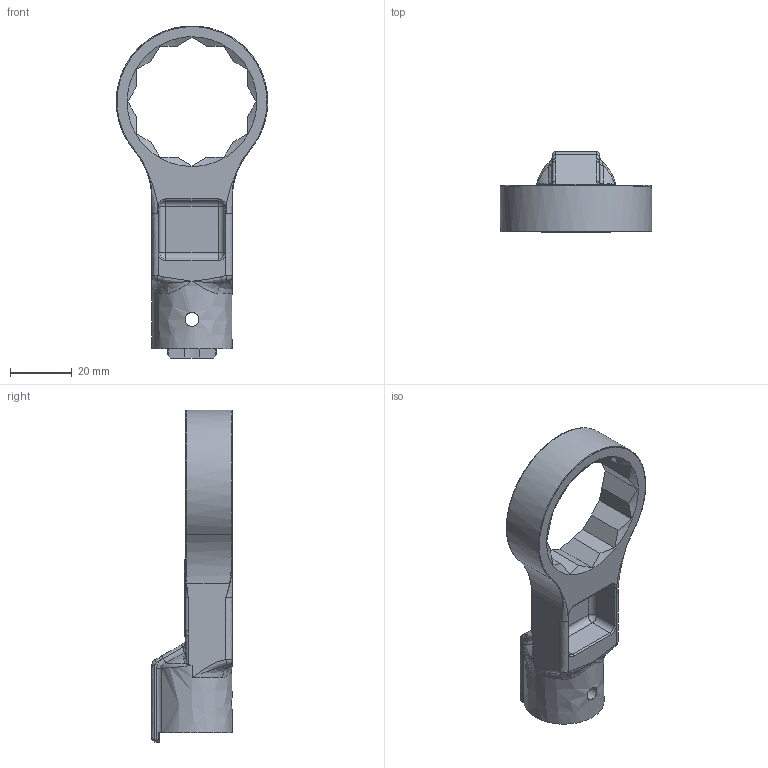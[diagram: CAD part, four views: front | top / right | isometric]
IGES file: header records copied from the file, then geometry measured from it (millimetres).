
Global section: file name: RH19DX36; native system: Autodesk Inventor 2016; preprocessor: unknown; author: q588; date: 20151110.164620; units: millimetre
Bounding box: 48.97 x 26 x 107.48 mm (x, y, z)
Volume: 26470.6 mm3; surface area: 12702.2 mm2
Topology: 1 solids, 1 shells, 200 faces, 502 edges, 283 vertices
Faces by surface type: bspline 200
